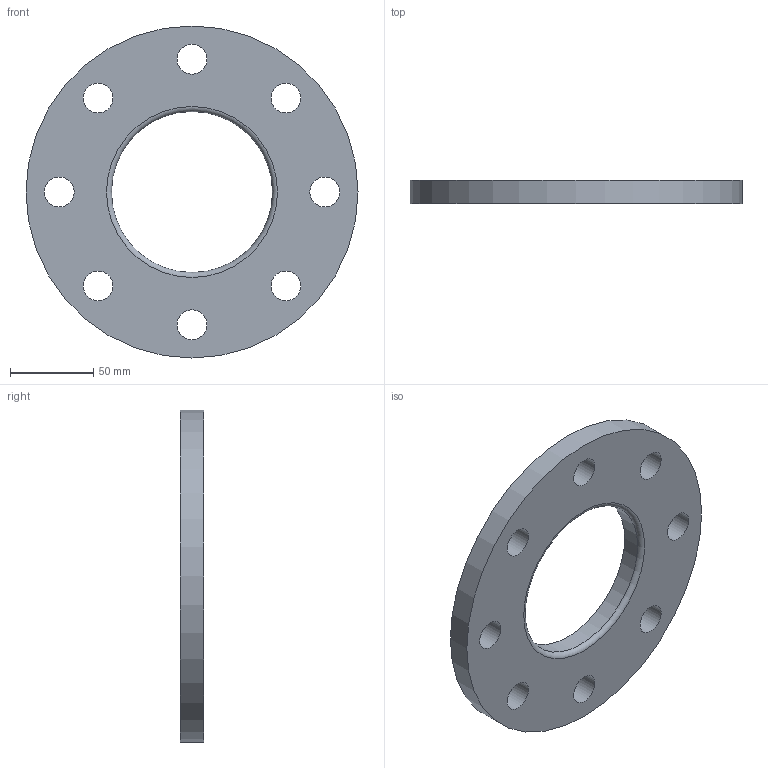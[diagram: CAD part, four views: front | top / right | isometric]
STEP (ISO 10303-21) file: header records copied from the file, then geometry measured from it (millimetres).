
FILE_DESCRIPTION(/* description */ (''),/* implementation_level */ '2;1');
FILE_NAME(/* name */ '366745.stp',/* time_stamp */ '2025-06-20T09:36:59+02:00',/* author */ ('JANAN'),/* organization */ (''),/* preprocessor_version */ 'ST-DEVELOPER v19.2',/* originating_system */ 'Autodesk Inventor 2023',/* authorisation */ '');
FILE_SCHEMA (('AUTOMOTIVE_DESIGN { 1 0 10303 214 3 1 1 }'));
Length unit declared in the file: millimetre
Products named in the file (1): tmp11F4.tmp
Bounding box: 200 x 14 x 200 mm (x, y, z)
Volume: 307268.4 mm3; surface area: 62988.5 mm2
Topology: 1 solids, 1 shells, 13 faces, 33 edges, 22 vertices
Faces by surface type: cylinder 10, plane 2, torus 1
Full cylindrical faces by diameter (mm): 18 x8, 97 x1, 200 x1
Entity records: 511 total; most frequent: DIRECTION 84, CARTESIAN_POINT 69, ORIENTED_EDGE 66, AXIS2_PLACEMENT_3D 37, EDGE_CURVE 33, EDGE_LOOP 31, CIRCLE 23, VERTEX_POINT 22
